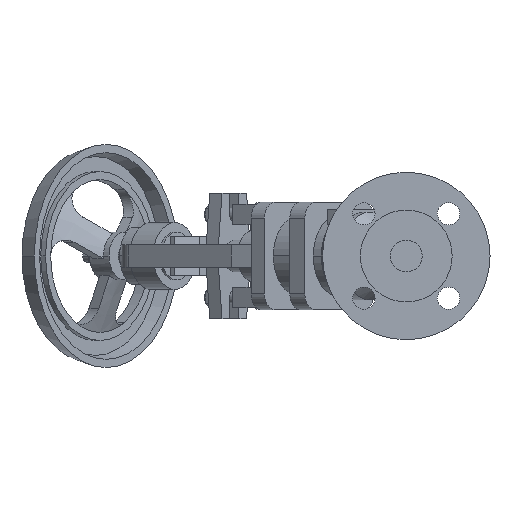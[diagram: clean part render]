
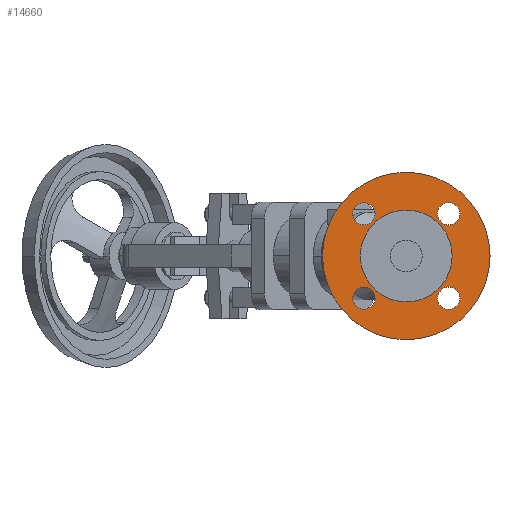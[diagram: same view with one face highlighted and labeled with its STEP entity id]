
A CAD part, left-side view. The second image highlights one B-rep face of the part: STEP entity #14660.
In plain terms, the highlighted planar face has unit normal (-1, 0, 0).
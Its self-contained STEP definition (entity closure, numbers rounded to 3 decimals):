
#4480=CARTESIAN_POINT('',(3.2,28.795,0.));
#4490=VERTEX_POINT('',#4480);
#4520=CARTESIAN_POINT('',(3.2,0.,0.));
#4530=DIRECTION('',(-1.,0.,0.));
#4540=DIRECTION('',(0.,1.,0.));
#4550=AXIS2_PLACEMENT_3D('',#4520,#4530,#4540);
#4560=CIRCLE('',#4550,28.795);
#4570=CARTESIAN_POINT('',(3.2,-28.795,0.));
#4580=VERTEX_POINT('',#4570);
#4590=EDGE_CURVE('',#4580,#4490,#4560,.T.);
#6460=CARTESIAN_POINT('',(3.2,0.,-52.5));
#6470=VERTEX_POINT('',#6460);
#6650=CARTESIAN_POINT('',(3.2,0.,52.5));
#6660=VERTEX_POINT('',#6650);
#6690=CARTESIAN_POINT('',(3.2,0.,0.));
#6700=DIRECTION('',(1.,0.,0.));
#6710=DIRECTION('',(0.,0.,-1.));
#6720=AXIS2_PLACEMENT_3D('',#6690,#6700,#6710);
#6730=CIRCLE('',#6720,52.5);
#6740=EDGE_CURVE('',#6470,#6660,#6730,.T.);
#6950=CARTESIAN_POINT('',(3.2,26.517,-19.517));
#6960=VERTEX_POINT('',#6950);
#7140=CARTESIAN_POINT('',(3.2,26.517,-33.517));
#7150=VERTEX_POINT('',#7140);
#7180=CARTESIAN_POINT('',(3.2,26.517,-26.517));
#7190=DIRECTION('',(-1.,0.,0.));
#7200=DIRECTION('',(0.,0.,-1.));
#7210=AXIS2_PLACEMENT_3D('',#7180,#7190,#7200);
#7220=CIRCLE('',#7210,7.);
#7230=EDGE_CURVE('',#6960,#7150,#7220,.T.);
#7440=CARTESIAN_POINT('',(3.2,-26.517,-33.517));
#7450=VERTEX_POINT('',#7440);
#7630=CARTESIAN_POINT('',(3.2,-26.517,-19.517));
#7640=VERTEX_POINT('',#7630);
#7670=CARTESIAN_POINT('',(3.2,-26.517,-26.517));
#7680=DIRECTION('',(-1.,0.,0.));
#7690=DIRECTION('',(0.,0.,-1.));
#7700=AXIS2_PLACEMENT_3D('',#7670,#7680,#7690);
#7710=CIRCLE('',#7700,7.);
#7720=EDGE_CURVE('',#7450,#7640,#7710,.T.);
#7930=CARTESIAN_POINT('',(3.2,-26.517,33.517));
#7940=VERTEX_POINT('',#7930);
#7990=CARTESIAN_POINT('',(3.2,-26.517,26.517));
#8000=DIRECTION('',(-1.,0.,0.));
#8010=DIRECTION('',(0.,0.,-1.));
#8020=AXIS2_PLACEMENT_3D('',#7990,#8000,#8010);
#8030=CIRCLE('',#8020,7.);
#8040=CARTESIAN_POINT('',(3.2,-26.517,19.517));
#8050=VERTEX_POINT('',#8040);
#8060=EDGE_CURVE('',#8050,#7940,#8030,.T.);
#8420=CARTESIAN_POINT('',(3.2,26.517,33.517));
#8430=VERTEX_POINT('',#8420);
#8610=CARTESIAN_POINT('',(3.2,26.517,19.517));
#8620=VERTEX_POINT('',#8610);
#8650=CARTESIAN_POINT('',(3.2,26.517,26.517));
#8660=DIRECTION('',(-1.,0.,0.));
#8670=DIRECTION('',(0.,0.,-1.));
#8680=AXIS2_PLACEMENT_3D('',#8650,#8660,#8670);
#8690=CIRCLE('',#8680,7.);
#8700=EDGE_CURVE('',#8430,#8620,#8690,.T.);
#14310=CARTESIAN_POINT('',(3.2,0.,0.));
#14320=DIRECTION('',(1.,0.,0.));
#14330=DIRECTION('',(0.,0.,-1.));
#14340=AXIS2_PLACEMENT_3D('',#14310,#14320,#14330);
#14350=PLANE('',#14340);
#14360=EDGE_CURVE('',#8620,#8430,#8690,.T.);
#14370=ORIENTED_EDGE('',*,*,#14360,.F.);
#14380=ORIENTED_EDGE('',*,*,#8700,.F.);
#14390=EDGE_LOOP('',(#14380,#14370));
#14400=FACE_BOUND('',#14390,.T.);
#14410=EDGE_CURVE('',#7940,#8050,#8030,.T.);
#14420=ORIENTED_EDGE('',*,*,#14410,.F.);
#14430=ORIENTED_EDGE('',*,*,#8060,.F.);
#14440=EDGE_LOOP('',(#14430,#14420));
#14450=FACE_BOUND('',#14440,.T.);
#14460=EDGE_CURVE('',#7640,#7450,#7710,.T.);
#14470=ORIENTED_EDGE('',*,*,#14460,.F.);
#14480=ORIENTED_EDGE('',*,*,#7720,.F.);
#14490=EDGE_LOOP('',(#14480,#14470));
#14500=FACE_BOUND('',#14490,.T.);
#14510=EDGE_CURVE('',#7150,#6960,#7220,.T.);
#14520=ORIENTED_EDGE('',*,*,#14510,.F.);
#14530=ORIENTED_EDGE('',*,*,#7230,.F.);
#14540=EDGE_LOOP('',(#14530,#14520));
#14550=FACE_BOUND('',#14540,.T.);
#14560=EDGE_CURVE('',#6660,#6470,#6730,.T.);
#14570=ORIENTED_EDGE('',*,*,#14560,.F.);
#14580=ORIENTED_EDGE('',*,*,#6740,.F.);
#14590=EDGE_LOOP('',(#14580,#14570));
#14600=FACE_OUTER_BOUND('',#14590,.T.);
#14610=EDGE_CURVE('',#4490,#4580,#4560,.T.);
#14620=ORIENTED_EDGE('',*,*,#14610,.F.);
#14630=ORIENTED_EDGE('',*,*,#4590,.F.);
#14640=EDGE_LOOP('',(#14630,#14620));
#14650=FACE_BOUND('',#14640,.T.);
#14660=ADVANCED_FACE('',(#14400,#14450,#14500,#14550,#14600,#14650),
#14350,.F.);
